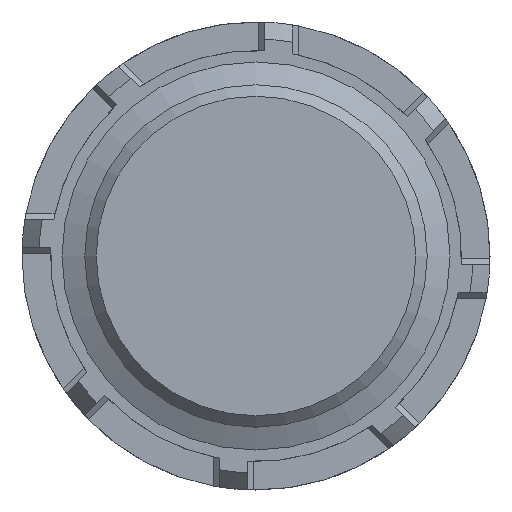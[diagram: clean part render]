
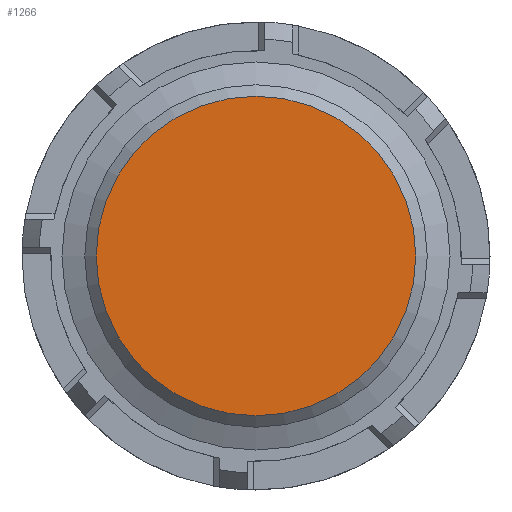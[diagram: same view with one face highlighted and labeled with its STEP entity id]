
A CAD part, front view. The second image highlights one B-rep face of the part: STEP entity #1266.
In plain terms, the highlighted planar face has unit normal (0, -1, 0).
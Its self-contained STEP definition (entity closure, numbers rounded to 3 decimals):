
#99=CIRCLE('',#1431,2.8);
#173=FACE_OUTER_BOUND('',#241,.T.);
#241=EDGE_LOOP('',(#1093));
#572=VERTEX_POINT('',#2238);
#757=EDGE_CURVE('',#572,#572,#99,.T.);
#1093=ORIENTED_EDGE('',*,*,#757,.F.);
#1205=PLANE('',#1434);
#1266=ADVANCED_FACE('',(#173),#1205,.T.);
#1431=AXIS2_PLACEMENT_3D('',#2239,#1804,#1805);
#1434=AXIS2_PLACEMENT_3D('',#2245,#1811,#1812);
#1804=DIRECTION('center_axis',(0.,1.,0.));
#1805=DIRECTION('ref_axis',(-1.,0.,0.));
#1811=DIRECTION('center_axis',(0.,-1.,0.));
#1812=DIRECTION('ref_axis',(0.,0.,-1.));
#2238=CARTESIAN_POINT('',(2.8,0.,0.));
#2239=CARTESIAN_POINT('Origin',(0.,0.,0.));
#2245=CARTESIAN_POINT('Origin',(0.,0.,0.));
